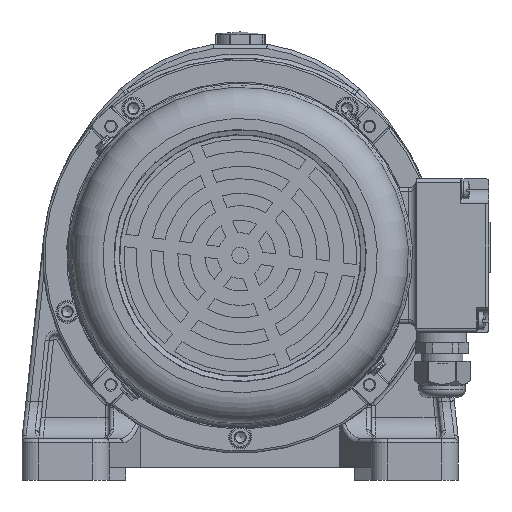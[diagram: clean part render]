
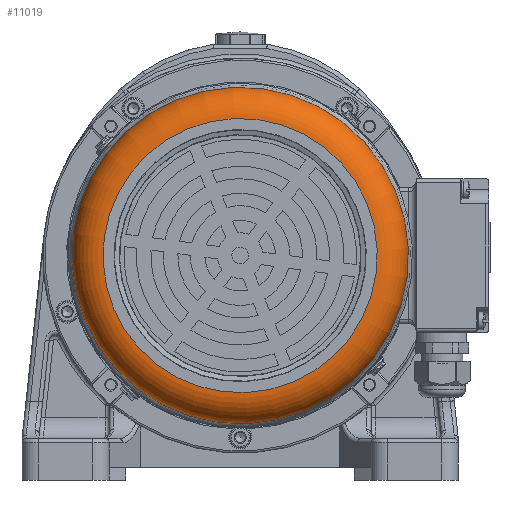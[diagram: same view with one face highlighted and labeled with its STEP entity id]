
A CAD part, left-side view. The second image highlights one B-rep face of the part: STEP entity #11019.
In plain terms, the highlighted toroidal (fillet/blend) face has major radius 66 mm and minor radius 15 mm.
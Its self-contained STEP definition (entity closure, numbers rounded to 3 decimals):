
#1882=TOROIDAL_SURFACE('',#76472,66.,15.);
#11019=ADVANCED_FACE('',(#24625,#24626),#1882,.T.);
#24625=FACE_BOUND('',#28458,.T.);
#24626=FACE_BOUND('',#28459,.T.);
#28458=EDGE_LOOP('',(#44997));
#28459=EDGE_LOOP('',(#44998));
#44997=ORIENTED_EDGE('',*,*,#64417,.F.);
#44998=ORIENTED_EDGE('',*,*,#64418,.T.);
#55107=VERTEX_POINT('',#123369);
#55108=VERTEX_POINT('',#123372);
#64417=EDGE_CURVE('',#55107,#55107,#69567,.T.);
#64418=EDGE_CURVE('',#55108,#55108,#69568,.T.);
#69567=CIRCLE('',#76469,81.);
#69568=CIRCLE('',#76471,66.);
#76469=AXIS2_PLACEMENT_3D('',#123368,#94442,#94443);
#76471=AXIS2_PLACEMENT_3D('',#123371,#94446,#94447);
#76472=AXIS2_PLACEMENT_3D('',#123373,#94448,#94449);
#94442=DIRECTION('',(1.,0.,0.));
#94443=DIRECTION('',(0.,0.609,-0.793));
#94446=DIRECTION('',(1.,0.,0.));
#94447=DIRECTION('',(0.,0.609,-0.793));
#94448=DIRECTION('',(1.,0.,0.));
#94449=DIRECTION('',(0.,0.609,-0.793));
#123368=CARTESIAN_POINT('',(-299.5,0.,0.));
#123369=CARTESIAN_POINT('',(-299.5,49.31,-64.262));
#123371=CARTESIAN_POINT('',(-314.5,0.,0.));
#123372=CARTESIAN_POINT('',(-314.5,40.178,-52.361));
#123373=CARTESIAN_POINT('',(-299.5,0.,0.));
